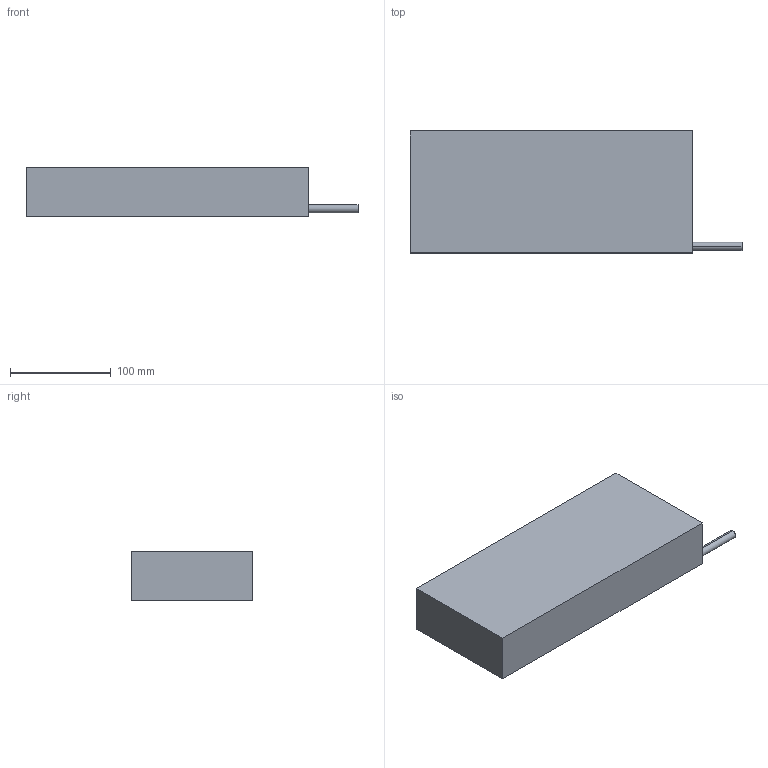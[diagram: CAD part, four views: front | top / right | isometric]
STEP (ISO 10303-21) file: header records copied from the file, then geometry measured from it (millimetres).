
FILE_DESCRIPTION (( 'STEP AP214' ), '1' );
FILE_NAME ('FLM-121-280.STEP', '2022-05-12T08:06:46', ( 'Microsoft' ), ( 'Microsoft' ), 'SwSTEP 2.0', 'SolidWorks 2016', '' );
FILE_SCHEMA (( 'AUTOMOTIVE_DESIGN' ));
Length unit declared in the file: millimetre
Products named in the file (1): FLM-121-280
Bounding box: 329.3 x 121 x 49.3 mm (x, y, z)
Volume: 1670513 mm3; surface area: 110477 mm2
Topology: 1 solids, 1 shells, 171 faces, 396 edges, 201 vertices
Faces by surface type: cone 108, cylinder 56, plane 7
Entity records: 5022 total; most frequent: DIRECTION 852, CARTESIAN_POINT 715, ORIENTED_EDGE 684, EDGE_CURVE 342, AXIS2_PLACEMENT_3D 338, VERTEX_POINT 201, EDGE_LOOP 199, LINE 176
